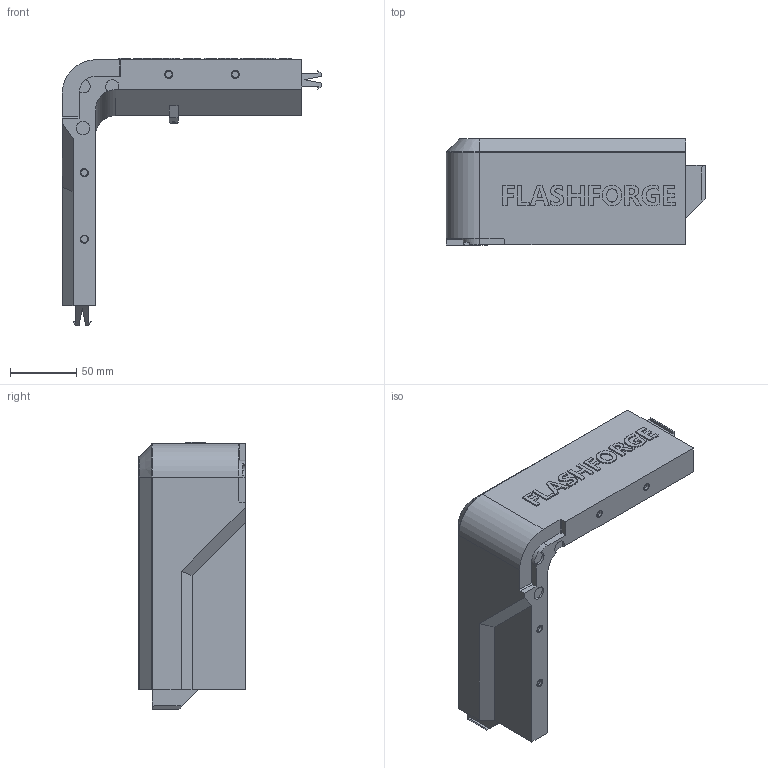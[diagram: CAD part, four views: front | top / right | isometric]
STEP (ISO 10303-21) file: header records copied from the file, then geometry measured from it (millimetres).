
FILE_DESCRIPTION (( 'STEP AP203' ), '1' );
FILE_NAME ('Ôö¸ß¼Ü-B.STEP', '2024-01-02T07:25:34', ( '' ), ( '' ), 'SwSTEP 2.0', 'SolidWorks 2014', '' );
FILE_SCHEMA (( 'CONFIG_CONTROL_DESIGN' ));
Length unit declared in the file: millimetre
Products named in the file (1): 崝詢殤-B
Bounding box: 195 x 80 x 200.95 mm (x, y, z)
Volume: 740600.6 mm3; surface area: 78291.7 mm2
Topology: 1 solids, 1 shells, 237 faces, 632 edges, 419 vertices
Faces by surface type: plane 162, bspline 36, cylinder 28, cone 9, torus 2
Entity records: 9298 total; most frequent: CARTESIAN_POINT 3492, ORIENTED_EDGE 1264, DIRECTION 1033, EDGE_CURVE 632, LINE 481, VECTOR 481, VERTEX_POINT 419, AXIS2_PLACEMENT_3D 276
